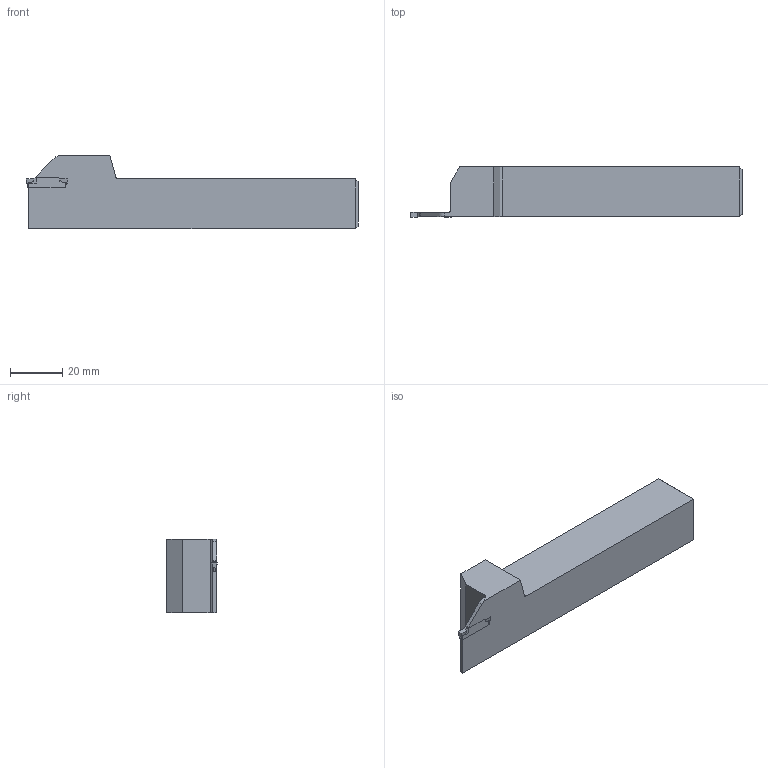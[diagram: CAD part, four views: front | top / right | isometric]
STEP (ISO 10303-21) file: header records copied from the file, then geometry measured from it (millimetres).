
FILE_DESCRIPTION(/* description */ (''),/* implementation_level */ '2;1');
FILE_NAME(/* name */ 'MGEHR12-2-HAAS_20200625.stp',/* time_stamp */ '2020-11-18T15:30:27+09:00',/* author */ (''),/* organization */ (''),/* preprocessor_version */ 'ST-DEVELOPER v11',/* originating_system */ 'SIEMENS UGS NX 6.0',/* authorisation */ '');
FILE_SCHEMA (('CONFIG_CONTROL_DESIGN'));
Length unit declared in the file: millimetre
Products named in the file (1): user1992z9ni
Bounding box: 127 x 19.3 x 28.05 mm (x, y, z)
Volume: 43797.5 mm3; surface area: 10590.5 mm2
Topology: 2 solids, 4 shells, 64 faces, 160 edges, 104 vertices
Faces by surface type: plane 46, cylinder 16, bspline 2
Entity records: 2018 total; most frequent: CARTESIAN_POINT 397, ORIENTED_EDGE 320, DIRECTION 310, EDGE_CURVE 160, LINE 120, VECTOR 120, VERTEX_POINT 104, AXIS2_PLACEMENT_3D 95
